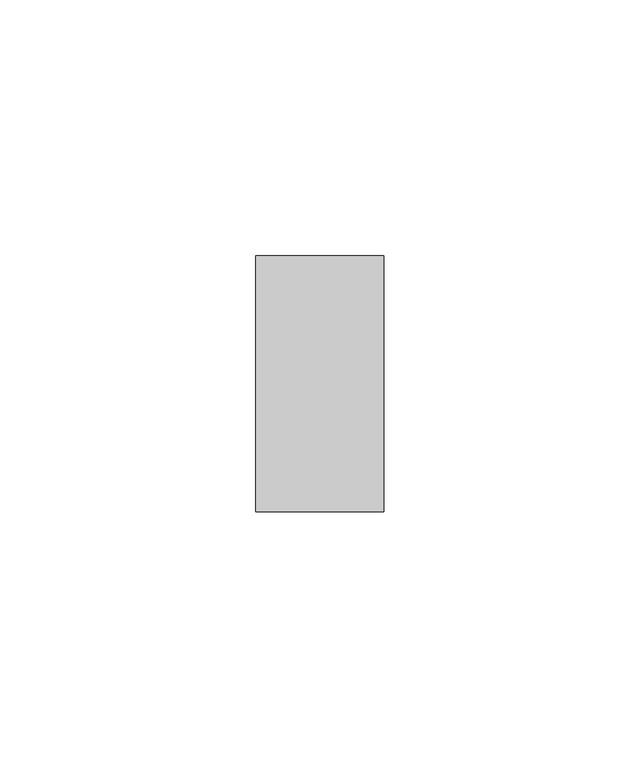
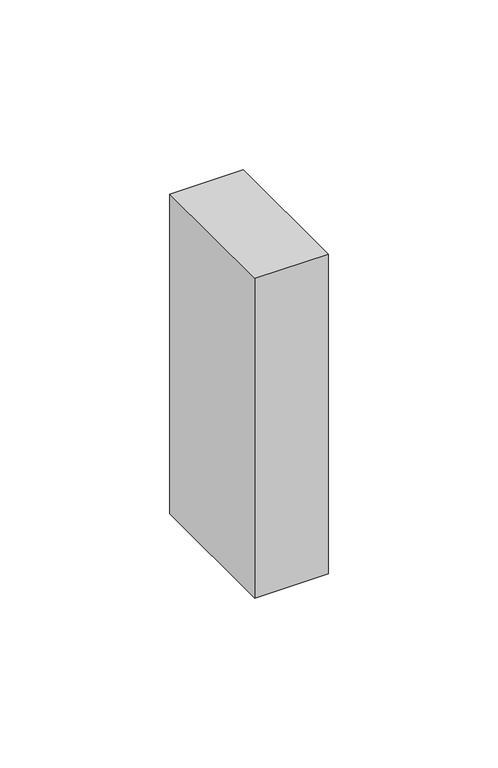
"""IFC4 building model written with IfcOpenShell, lengths in millimetres: duct fitting geometry, КНС_ЗаглушкаТорцевая_DKC : Заглушка торцевая."""

import ifcopenshell
import ifcopenshell.guid

model = None  # the IFC model being written
_history = None  # IfcOwnerHistory: only IFC2X3 demands one
_inside = {}  # id of a spatial element -> (the spatial element, [elements in it])
_under = {}  # id of a project, library or spatial element -> (it, [spatial elements below it])
_declared = {}  # id of a project -> (the project, [libraries it declares])
_typed = {}  # id of a type object -> (the type object, [elements of that type])
_made_of = {}  # id of a material, layer set ... -> (it, [elements and type objects made of it])


def new_model(schema):
    """Start an empty IFC model of exactly this schema.

    Asked for "IFC4X3", IfcOpenShell would pick the latest addendum, in which some entities
    have other attributes; the version numbers below select the first issue.
    IFC2X3 requires an IfcOwnerHistory on every rooted entity: one is made here for all.
    """
    global model, _history
    if schema == "IFC4X3":
        model = ifcopenshell.file(schema_version=(4, 3, 0, 0))
    else:
        model = ifcopenshell.file(schema=schema)
    _inside.clear()
    _under.clear()
    _declared.clear()
    _typed.clear()
    _made_of.clear()
    _history = None
    if model.schema == "IFC2X3":
        org = make("IfcOrganization", Name="unknown")
        user = make(
            "IfcPersonAndOrganization",
            ThePerson=make("IfcPerson", FamilyName="unknown"),
            TheOrganization=org,
        )
        app = make(
            "IfcApplication",
            ApplicationDeveloper=org,
            Version="unknown",
            ApplicationFullName="unknown",
            ApplicationIdentifier="unknown",
        )
        _history = make(
            "IfcOwnerHistory",
            OwningUser=user,
            OwningApplication=app,
            ChangeAction="ADDED",
            CreationDate=0,
        )
    return model


def make(cls, **values):
    """One entity of the class cls with the attributes given. An attribute that is None is left unset."""
    return model.create_entity(
        cls, **{name: value for name, value in values.items() if value is not None}
    )


def rooted(cls, **values):
    """An entity with a GlobalId (a new one), such as an element, a storey or a relation."""
    return make(cls, GlobalId=ifcopenshell.guid.new(), OwnerHistory=_history, **values)


def si_unit(unit_type, name, prefix=None):
    """IfcSIUnit, for example si_unit("LENGTHUNIT", "METRE", prefix="MILLI")."""
    return make("IfcSIUnit", UnitType=unit_type, Prefix=prefix, Name=name)


def assignment(units):
    """IfcUnitAssignment: the units of a project."""
    return None if units is None else make("IfcUnitAssignment", Units=units)


def point(xyz):
    """IfcCartesianPoint."""
    return None if xyz is None else make("IfcCartesianPoint", Coordinates=xyz)


def direction(xyz):
    """IfcDirection."""
    return None if xyz is None else make("IfcDirection", DirectionRatios=xyz)


def frame(location, z_axis=None, x_axis=None):
    """IfcAxis2Placement3D, a coordinate frame: its origin and axes. An axis left out is left unset."""
    return make(
        "IfcAxis2Placement3D",
        Location=point(location),
        Axis=direction(z_axis),
        RefDirection=direction(x_axis),
    )


def origin():
    """The frame at (0, 0, 0) with its axes left unset."""
    return frame((0.0, 0.0, 0.0))


def place(relative_to, where):
    """IfcLocalPlacement: puts the frame where relative to a parent placement (None: the world)."""
    return make(
        "IfcLocalPlacement", PlacementRelTo=relative_to, RelativePlacement=where
    )


def context(
    kind, dimensions, precision=None, world=None, true_north=None, identifier=None
):
    """IfcGeometricRepresentationContext, for example the 3D "Model" context."""
    return make(
        "IfcGeometricRepresentationContext",
        ContextIdentifier=identifier,
        ContextType=kind,
        CoordinateSpaceDimension=dimensions,
        Precision=precision,
        WorldCoordinateSystem=world,
        TrueNorth=true_north,
    )


def project(units=None, contexts=None):
    """IfcProject with its units and contexts."""
    return rooted(
        "IfcProject",
        Name="project",
        RepresentationContexts=contexts,
        UnitsInContext=assignment(units),
    )


def spatial(cls, under=None, at=None, **own):
    """A site, building, storey or space (cls), placed at a placement, below another one or the project."""
    s = rooted(cls, ObjectPlacement=at, **own)
    if under is not None:
        _under.setdefault(under.id(), (under, []))[1].append(s)
    return s


def polyline(points):
    """IfcPolyline through the points."""
    return make("IfcPolyline", Points=[point(p) for p in points])


def outline(outer, holes=None, kind="AREA"):
    """IfcArbitraryClosedProfileDef: a profile drawn as a closed curve; with holes, ...WithVoids."""
    if holes is None:
        return make("IfcArbitraryClosedProfileDef", ProfileType=kind, OuterCurve=outer)
    return make(
        "IfcArbitraryProfileDefWithVoids",
        ProfileType=kind,
        OuterCurve=outer,
        InnerCurves=holes,
    )


def extrude(swept, where, along, depth):
    """IfcExtrudedAreaSolid: the profile swept, set in the frame where, extruded along a direction by depth."""
    return make(
        "IfcExtrudedAreaSolid",
        SweptArea=swept,
        Position=where,
        ExtrudedDirection=direction(along),
        Depth=depth,
    )


def shape(context_of_items, identifier, shape_type, items):
    """IfcShapeRepresentation: the items that make up one representation, for example the "Body"."""
    return make(
        "IfcShapeRepresentation",
        ContextOfItems=context_of_items,
        RepresentationIdentifier=identifier,
        RepresentationType=shape_type,
        Items=items,
    )


def source(mapping_origin, context_of_items, identifier, shape_type, items):
    """IfcRepresentationMap: a shape defined once, which mapped items show again and again."""
    return make(
        "IfcRepresentationMap",
        MappingOrigin=mapping_origin,
        MappedRepresentation=shape(context_of_items, identifier, shape_type, items),
    )


def transform(
    local_origin,
    x_axis=None,
    y_axis=None,
    z_axis=None,
    scale=None,
    scale2=None,
    scale3=None,
    uniform=True,
):
    """IfcCartesianTransformationOperator3D, or its non-uniform kind. x_axis, y_axis, z_axis: its Axis1, 2, 3."""
    if uniform:
        return make(
            "IfcCartesianTransformationOperator3D",
            Axis1=direction(x_axis),
            Axis2=direction(y_axis),
            LocalOrigin=point(local_origin),
            Scale=scale,
            Axis3=direction(z_axis),
        )
    return make(
        "IfcCartesianTransformationOperator3DnonUniform",
        Axis1=direction(x_axis),
        Axis2=direction(y_axis),
        LocalOrigin=point(local_origin),
        Scale=scale,
        Axis3=direction(z_axis),
        Scale2=scale2,
        Scale3=scale3,
    )


def mapped(mapping_source, mapping_target):
    """IfcMappedItem: shows the shape of a source again, moved by a transform."""
    return make(
        "IfcMappedItem", MappingSource=mapping_source, MappingTarget=mapping_target
    )


def made_of(thing, what):
    """Note that an element or type object is made of a material, layer set ...; save() writes the relation."""
    if what is not None:
        _made_of.setdefault(what.id(), (what, []))[1].append(thing)
    return thing


def element(
    cls,
    number,
    at=None,
    inside=None,
    cuts=None,
    type_object=None,
    material=None,
    context=None,
    identifier="Body",
    shape_type=None,
    held_by="IfcProductDefinitionShape",
    body=None,
    shapes=None,
    **own,
):
    """One element of the class cls, such as IfcWall. Its Tag is "e" and its number.

    at: its placement. inside: the storey or other place that contains it. cuts: it is an
    opening in that element (IfcRelVoidsElement). A single representation is given by context,
    identifier, shape_type and body (its items); several are given by shapes. held_by: the class
    of the entity that holds the representations. save() writes the other relations.
    """
    e = rooted(cls, Tag="e%d" % number, ObjectPlacement=at, **own)
    if body is not None:
        shapes = [shape(context, identifier, shape_type, body)]
    if shapes is not None:
        e.Representation = make(held_by, Representations=shapes)
    if inside is not None:
        _inside.setdefault(inside.id(), (inside, []))[1].append(e)
    if cuts is not None:
        rooted(
            "IfcRelVoidsElement", RelatingBuildingElement=cuts, RelatedOpeningElement=e
        )
    if type_object is not None:
        _typed.setdefault(type_object.id(), (type_object, []))[1].append(e)
    return made_of(e, material)


def aggregate(whole, parts):
    """IfcRelAggregates: a whole, such as a stair, and the parts it consists of."""
    return rooted("IfcRelAggregates", RelatingObject=whole, RelatedObjects=parts)


def save(model, path):
    """Write the relations noted so far, then the file.

    IfcRelAggregates (storeys below a building ...), IfcRelContainedInSpatialStructure (elements
    in a storey), IfcRelDefinesByType, IfcRelAssociatesMaterial and IfcRelDeclares: one each for
    every whole, place, type object, material and project.
    """
    for whole, parts in _under.values():
        aggregate(whole, parts)
    for where, things in _inside.values():
        rooted(
            "IfcRelContainedInSpatialStructure",
            RelatedElements=things,
            RelatingStructure=where,
        )
    for kind, things in _typed.values():
        rooted("IfcRelDefinesByType", RelatedObjects=things, RelatingType=kind)
    for what, things in _made_of.values():
        rooted("IfcRelAssociatesMaterial", RelatedObjects=things, RelatingMaterial=what)
    for by, libraries in _declared.values():
        rooted("IfcRelDeclares", RelatingContext=by, RelatedDefinitions=libraries)
    model.write(path)


def duct_fitting_11c19344(model_context):
    return source(origin(), model_context, "Body", "SweptSolid", [
        extrude(outline(polyline([(35.1665888, 9.9242756), (35.1665888, -40.0757244), (10.1665888, -40.0757244), (10.1665888, 9.9242756), (35.1665888, 9.9242756)])), frame((0.0, 0.0, -57.5), z_axis=(0.0, 0.0, 1.0), x_axis=(1.0, 0.0, 0.0)), (0.0, 0.0, 1.0), 115.0),
    ])


if __name__ == "__main__":
    model = new_model("IFC4")
    model_context = context("Model", 3, world=origin())
    ifc_project = project(units=[si_unit("LENGTHUNIT", "METRE", prefix="MILLI")], contexts=[model_context])
    site = spatial("IfcSite", under=ifc_project)
    building = spatial("IfcBuilding", under=site)
    placement = place(None, origin())
    duct_fitting_shape = duct_fitting_11c19344(model_context)
    element("IfcDuctFitting", 1, ObjectType="КНС_ЗаглушкаТорцевая_DKC : Заглушка торцевая", at=placement, inside=building, context=model_context, shape_type="MappedRepresentation", body=[
        mapped(duct_fitting_shape, transform((0.0, 0.0, 0.0), x_axis=(1.0, 0.0, 0.0), y_axis=(0.0, 1.0, 0.0), z_axis=(0.0, 0.0, 1.0))),
    ])
    save(model, "model.ifc")
